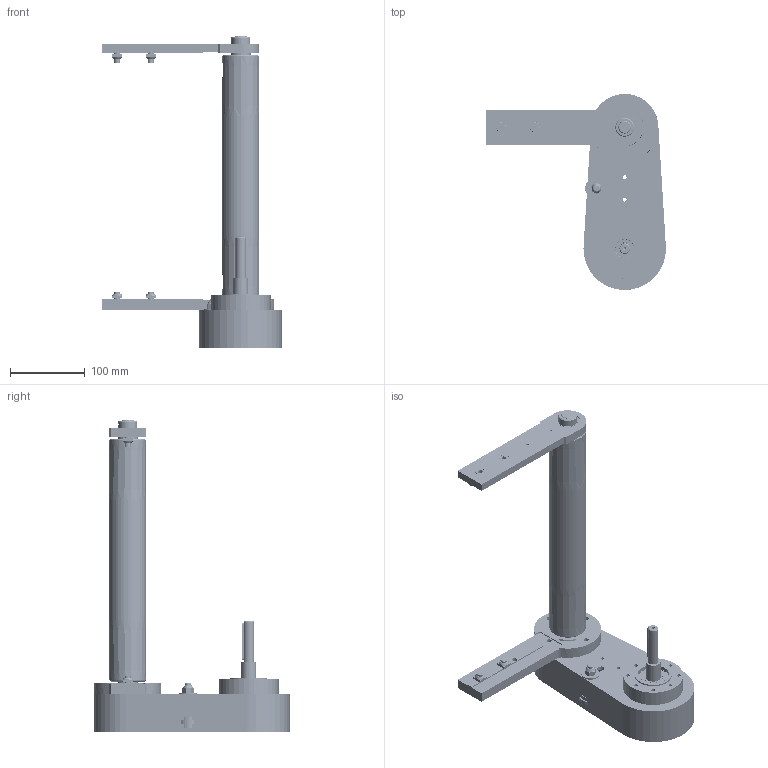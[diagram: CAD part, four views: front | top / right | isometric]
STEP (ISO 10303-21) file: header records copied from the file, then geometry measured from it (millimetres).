
FILE_DESCRIPTION (( 'STEP AP203' ), '1' );
FILE_NAME ('084.050.KTC.30.300.STEP', '2019-07-29T13:11:51', ( '' ), ( '' ), 'SwSTEP 2.0', 'SolidWorks 2018', '' );
FILE_SCHEMA (( 'CONFIG_CONTROL_DESIGN' ));
Length unit declared in the file: millimetre
Products named in the file (26): 084.050.KTC.30.300; 084.810.004; RONDELLE FASCIA LARGA UNI 6593_8.4x24 UNI 6593; Circlip DIN 471 - 8 x 0.8_Circlip DIN 471 - 8 x 0.8; 084.803.012; DADI ESAGONALI AUTOBLOCCANTI UNI 7473 INOX_M8 UNI 7473 INOX; 084.813.001; 084.301.000 VITI ALUSIC_084.301.003; 084.802.021; 084.302.000 DADI ALUSIC 13x13_084.302.004; 084.802.034_084.802.034; 084.810.005; CHIAVETTE_A 5x5x50 UNI 6604-69; 084.810.010; CUSCINETTI A SFERE_608-2RS; 084.802.017_084.802.017; 084.807.001_084.807.001; 084.811.004; 084.813.006; 084.809.003; 084.807.002_084.807.002; 084.803.014; 084.810.001; 084.815.105_Default<A macchina>; 084.809.004; 084.809.001
Assembly tree (34 placements, depth 3):
  084.050.KTC.30.300
    084.815.105_Default<A macchina>
    084.811.004
    084.813.001
    084.810.001  x2
    084.802.034_084.802.034
    084.802.017_084.802.017
    084.807.001_084.807.001
    084.807.002_084.807.002
    084.803.014  x2
    084.809.004
    084.813.006
    084.802.021
    084.803.012
    084.809.001
    084.809.003
    084.810.005
      084.810.010
      084.810.004
      CUSCINETTI A SFERE_608-2RS  x2
      Circlip DIN 471 - 8 x 0.8_Circlip DIN 471 - 8 x 0.8
      RONDELLE FASCIA LARGA UNI 6593_8.4x24 UNI 6593
      DADI ESAGONALI AUTOBLOCCANTI UNI 7473 INOX_M8 UNI 7473 INOX
    084.301.000 VITI ALUSIC_084.301.003  x4
    084.302.000 DADI ALUSIC 13x13_084.302.004  x4
    CHIAVETTE_A 5x5x50 UNI 6604-69
Bounding box: 240 x 261.5 x 416 mm (x, y, z)
Volume: 963041.4 mm3; surface area: 532266.6 mm2
Topology: 63 solids, 64 shells, 2916 faces, 6878 edges, 4397 vertices
Faces by surface type: cylinder 1439, plane 732, bspline 468, cone 174, torus 94, sphere 9
Entity records: 83345 total; most frequent: CARTESIAN_POINT 18784, DIRECTION 14023, ORIENTED_EDGE 12154, EDGE_CURVE 6077, AXIS2_PLACEMENT_3D 5927, VERTEX_POINT 3874, CIRCLE 3743, EDGE_LOOP 3193
